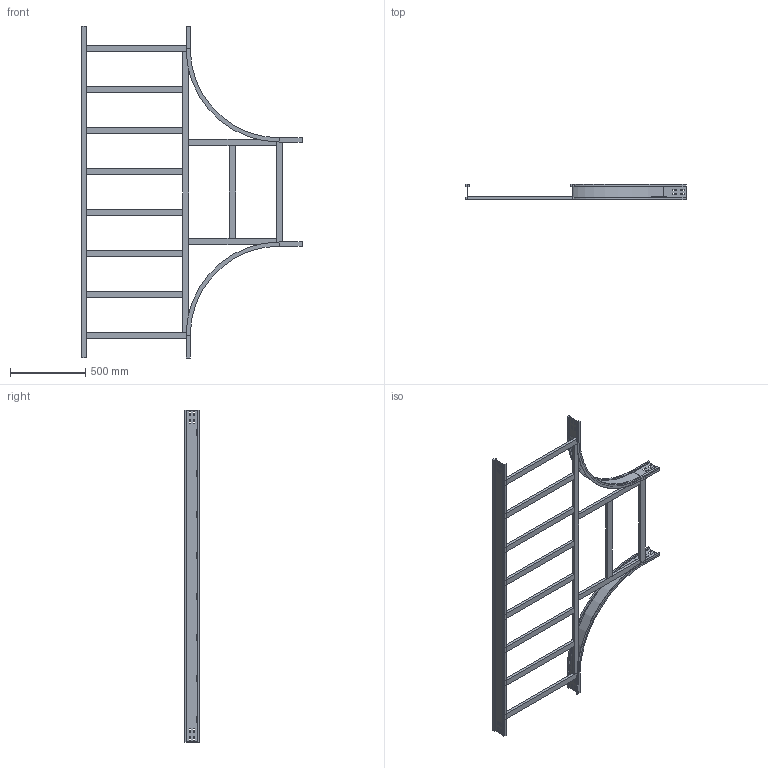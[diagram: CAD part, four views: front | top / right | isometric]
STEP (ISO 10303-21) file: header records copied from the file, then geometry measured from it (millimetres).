
FILE_DESCRIPTION (( 'STEP AP214' ), '1' );
FILE_NAME ('15S6D700.step', '2025-02-21T16:13:13', ( '' ), ( '' ), 'SwSTEP 2.0', 'SolidWorks 2023', '' );
FILE_SCHEMA (( 'AUTOMOTIVE_DESIGN' ));
Length unit declared in the file: millimetre
Products named in the file (8): TRAVERSINO_LONG._R600+700; TRAVERSINO_COPPIA_700; LONGH.RETT_H100_R600+700; TRAVERSINO_INTERMEDIO_R600+700; TRAVERSINO_700; 15S6D700; LONGH.INTERNO 90°_H100_R600; TRAVERSINO_VERT_R600
Assembly tree (16 placements, depth 2):
  15S6D700
    LONGH.INTERNO 90°_H100_R600  x2
    LONGH.RETT_H100_R600+700
    TRAVERSINO_700  x3
    TRAVERSINO_LONG._R600+700
    TRAVERSINO_INTERMEDIO_R600+700  x6
    TRAVERSINO_VERT_R600  x2
    TRAVERSINO_COPPIA_700
Bounding box: 1459 x 100 x 2200 mm (x, y, z)
Volume: 10308466 mm3; surface area: 2578607 mm2
Topology: 16 solids, 16 shells, 264 faces, 648 edges, 416 vertices
Faces by surface type: plane 252, cylinder 12
Entity records: 4685 total; most frequent: CARTESIAN_POINT 777, ORIENTED_EDGE 744, DIRECTION 714, EDGE_CURVE 372, LINE 360, VECTOR 360, VERTEX_POINT 240, EDGE_LOOP 178
